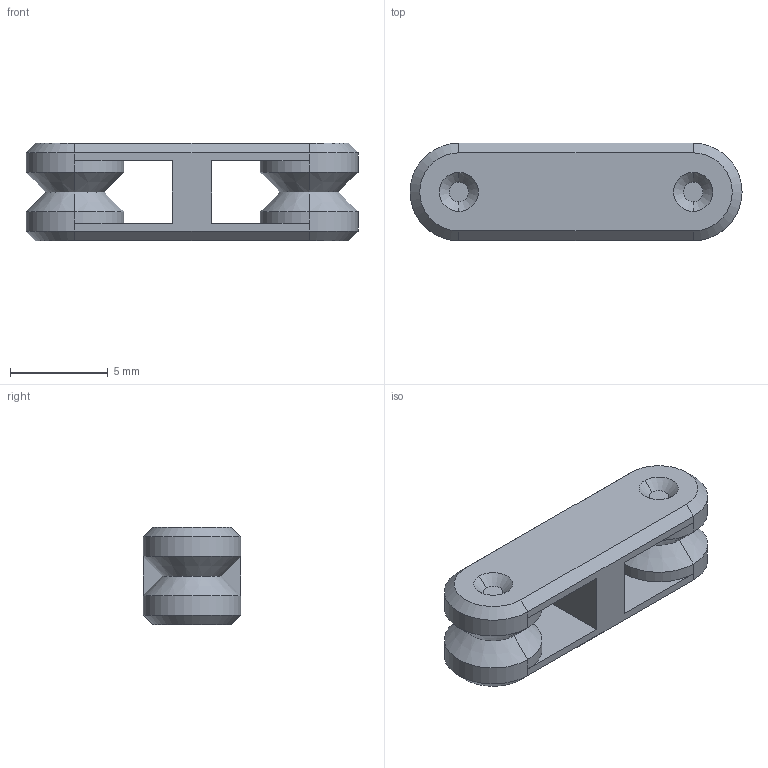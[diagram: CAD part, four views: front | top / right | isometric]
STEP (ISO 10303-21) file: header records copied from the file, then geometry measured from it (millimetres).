
FILE_DESCRIPTION (( 'STEP AP214' ), '1' );
FILE_NAME ('Lower Front Leg.STEP', '2023-12-23T22:23:55', ( '' ), ( '' ), 'SwSTEP 2.0', 'SolidWorks 2023', '' );
FILE_SCHEMA (( 'AUTOMOTIVE_DESIGN' ));
Length unit declared in the file: millimetre
Products named in the file (1): Lower Front Leg
Bounding box: 17 x 5 x 5 mm (x, y, z)
Volume: 260.4 mm3; surface area: 425.1 mm2
Topology: 1 solids, 1 shells, 46 faces, 104 edges, 60 vertices
Faces by surface type: cone 20, plane 18, cylinder 8
Entity records: 1295 total; most frequent: DIRECTION 238, CARTESIAN_POINT 211, ORIENTED_EDGE 208, EDGE_CURVE 104, AXIS2_PLACEMENT_3D 87, LINE 64, VECTOR 64, VERTEX_POINT 60
